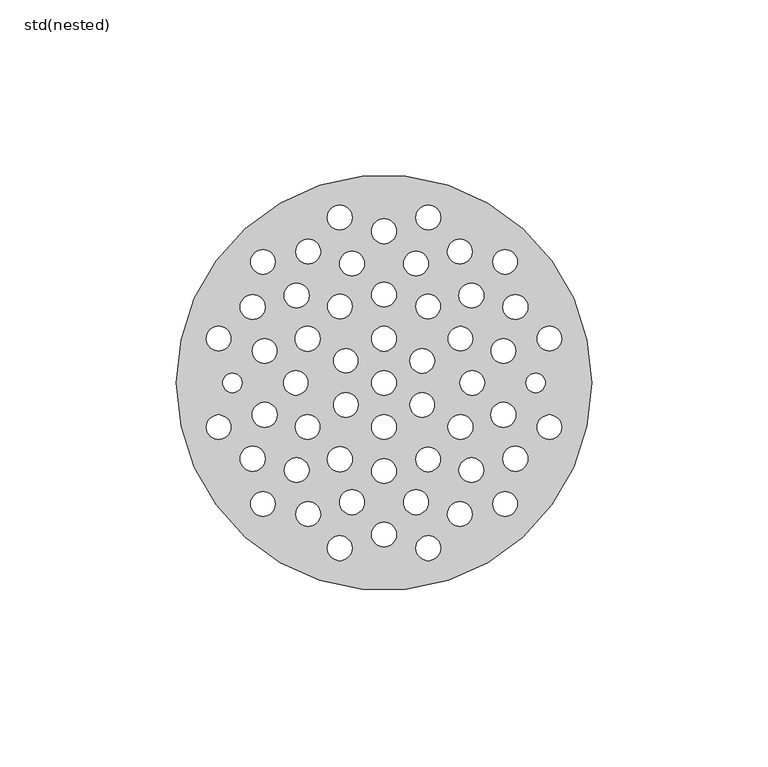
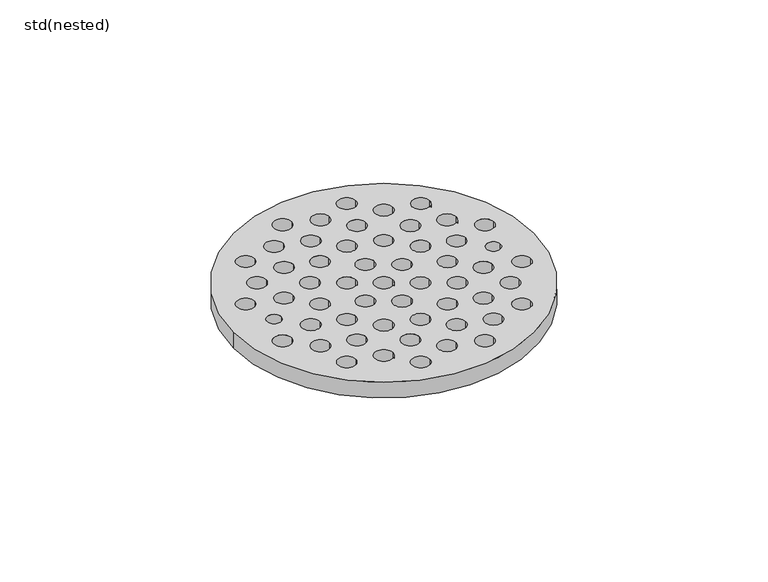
"""IFC4 building model written with IfcOpenShell, lengths in millimetres: sanitary terminal geometry, ZZZ_do not use_PF_ST_UN_strainer_ACO : std(nested)."""

from ifc_helpers import new_model, si_unit, point, frame, frame_2d, origin, origin_2d, place, context, project, spatial, circle_curve, trimmed, segment, composite_curve, outline, extrude, source, transform, mapped, element, save


def std_nested_4c23bc70(model_context):
    return source(origin(), model_context, "Body", "SweptSolid", [
        extrude(outline(composite_curve([segment(trimmed(circle_curve(origin_2d(), 58.8), [point((-58.8, 0.0))], [point((58.8, 0.0))], False, "CARTESIAN"), True, "CONTINUOUS"), segment(trimmed(circle_curve(origin_2d(), 58.8), [point((58.8, 0.0))], [point((-58.8, 0.0))], False, "CARTESIAN"), True, "CONTINUOUS")], self_intersect=False), holes=[composite_curve([segment(trimmed(circle_curve(origin_2d(), 3.5), [point((-3.5, 0.0))], [point((3.5, 0.0))], True, "CARTESIAN"), True, "CONTINUOUS"), segment(trimmed(circle_curve(origin_2d(), 3.5), [point((3.5, 0.0))], [point((-3.5, 0.0))], True, "CARTESIAN"), True, "CONTINUOUS")], self_intersect=False), composite_curve([segment(trimmed(circle_curve(frame_2d((0.0, -12.5)), 3.5121835), [point((-3.5121835, -12.5))], [point((3.5121835, -12.5))], True, "CARTESIAN"), True, "CONTINUOUS"), segment(trimmed(circle_curve(frame_2d((0.0, -12.5)), 3.5121835), [point((3.5121835, -12.5))], [point((-3.5121835, -12.5))], True, "CARTESIAN"), True, "CONTINUOUS")], self_intersect=False), composite_curve([segment(trimmed(circle_curve(frame_2d((0.0, 12.5)), 3.5129176), [point((-3.5129176, 12.5))], [point((3.5129176, 12.5))], True, "CARTESIAN"), True, "CONTINUOUS"), segment(trimmed(circle_curve(frame_2d((0.0, 12.5)), 3.5129176), [point((3.5129176, 12.5))], [point((-3.5129176, 12.5))], True, "CARTESIAN"), True, "CONTINUOUS")], self_intersect=False), composite_curve([segment(trimmed(circle_curve(frame_2d((10.8253175, -6.25)), 3.467804), [point((7.3575135, -6.25))], [point((14.2931216, -6.25))], True, "CARTESIAN"), True, "CONTINUOUS"), segment(trimmed(circle_curve(frame_2d((10.8253175, -6.25)), 3.467804), [point((14.2931216, -6.25))], [point((7.3575135, -6.25))], True, "CARTESIAN"), True, "CONTINUOUS")], self_intersect=False), composite_curve([segment(trimmed(circle_curve(frame_2d((10.8253175, 6.25)), 3.493145), [point((7.3321725, 6.25))], [point((14.3184626, 6.25))], True, "CARTESIAN"), True, "CONTINUOUS"), segment(trimmed(circle_curve(frame_2d((10.8253175, 6.25)), 3.493145), [point((14.3184626, 6.25))], [point((7.3321725, 6.25))], True, "CARTESIAN"), True, "CONTINUOUS")], self_intersect=False), composite_curve([segment(trimmed(circle_curve(frame_2d((-10.8253175, 6.25)), 3.4582398), [point((-14.2835573, 6.25))], [point((-7.3670778, 6.25))], True, "CARTESIAN"), True, "CONTINUOUS"), segment(trimmed(circle_curve(frame_2d((-10.8253175, 6.25)), 3.4582398), [point((-7.3670778, 6.25))], [point((-14.2835573, 6.25))], True, "CARTESIAN"), True, "CONTINUOUS")], self_intersect=False), composite_curve([segment(trimmed(circle_curve(frame_2d((-10.8253175, -6.25)), 3.4813104), [point((-14.306628, -6.25))], [point((-7.3440071, -6.25))], True, "CARTESIAN"), True, "CONTINUOUS"), segment(trimmed(circle_curve(frame_2d((-10.8253175, -6.25)), 3.4813104), [point((-7.3440071, -6.25))], [point((-14.306628, -6.25))], True, "CARTESIAN"), True, "CONTINUOUS")], self_intersect=False), composite_curve([segment(trimmed(circle_curve(frame_2d((0.0, -25.0)), 3.4978056), [point((-3.4978056, -25.0))], [point((3.4978056, -25.0))], True, "CARTESIAN"), True, "CONTINUOUS"), segment(trimmed(circle_curve(frame_2d((0.0, -25.0)), 3.4978056), [point((3.4978056, -25.0))], [point((-3.4978056, -25.0))], True, "CARTESIAN"), True, "CONTINUOUS")], self_intersect=False), composite_curve([segment(trimmed(circle_curve(frame_2d((25.0, 0.0)), 3.4808201), [point((21.5191799, 0.0))], [point((28.4808201, 0.0))], True, "CARTESIAN"), True, "CONTINUOUS"), segment(trimmed(circle_curve(frame_2d((25.0, 0.0)), 3.4808201), [point((28.4808201, 0.0))], [point((21.5191799, 0.0))], True, "CARTESIAN"), True, "CONTINUOUS")], self_intersect=False), composite_curve([segment(trimmed(circle_curve(frame_2d((0.0, 25.0)), 3.4910423), [point((-3.4910423, 25.0))], [point((3.4910423, 25.0))], True, "CARTESIAN"), True, "CONTINUOUS"), segment(trimmed(circle_curve(frame_2d((0.0, 25.0)), 3.4910423), [point((3.4910423, 25.0))], [point((-3.4910423, 25.0))], True, "CARTESIAN"), True, "CONTINUOUS")], self_intersect=False), composite_curve([segment(trimmed(circle_curve(frame_2d((-25.0, 0.0)), 3.4617667), [point((-28.4617667, 0.0))], [point((-21.5382333, 0.0))], True, "CARTESIAN"), True, "CONTINUOUS"), segment(trimmed(circle_curve(frame_2d((-25.0, 0.0)), 3.4617667), [point((-21.5382333, 0.0))], [point((-28.4617667, 0.0))], True, "CARTESIAN"), True, "CONTINUOUS")], self_intersect=False), composite_curve([segment(trimmed(circle_curve(frame_2d((21.6506351, 12.5)), 3.4893638), [point((18.1612713, 12.5))], [point((25.1399989, 12.5))], True, "CARTESIAN"), True, "CONTINUOUS"), segment(trimmed(circle_curve(frame_2d((21.6506351, 12.5)), 3.4893638), [point((25.1399989, 12.5))], [point((18.1612713, 12.5))], True, "CARTESIAN"), True, "CONTINUOUS")], self_intersect=False), composite_curve([segment(trimmed(circle_curve(frame_2d((12.5, 21.6506351)), 3.4541167), [point((9.0458833, 21.6506351))], [point((15.9541167, 21.6506351))], True, "CARTESIAN"), True, "CONTINUOUS"), segment(trimmed(circle_curve(frame_2d((12.5, 21.6506351)), 3.4541167), [point((15.9541167, 21.6506351))], [point((9.0458833, 21.6506351))], True, "CARTESIAN"), True, "CONTINUOUS")], self_intersect=False), composite_curve([segment(trimmed(circle_curve(frame_2d((-12.5, 21.6506351)), 3.4581743), [point((-15.9581743, 21.6506351))], [point((-9.0418257, 21.6506351))], True, "CARTESIAN"), True, "CONTINUOUS"), segment(trimmed(circle_curve(frame_2d((-12.5, 21.6506351)), 3.4581743), [point((-9.0418257, 21.6506351))], [point((-15.9581743, 21.6506351))], True, "CARTESIAN"), True, "CONTINUOUS")], self_intersect=False), composite_curve([segment(trimmed(circle_curve(frame_2d((-21.6506351, 12.5)), 3.5466773), [point((-25.1973124, 12.5))], [point((-18.1039578, 12.5))], True, "CARTESIAN"), True, "CONTINUOUS"), segment(trimmed(circle_curve(frame_2d((-21.6506351, 12.5)), 3.5466773), [point((-18.1039578, 12.5))], [point((-25.1973124, 12.5))], True, "CARTESIAN"), True, "CONTINUOUS")], self_intersect=False), composite_curve([segment(trimmed(circle_curve(frame_2d((-21.6506351, -12.5)), 3.4738775), [point((-25.1245126, -12.5))], [point((-18.1767576, -12.5))], True, "CARTESIAN"), True, "CONTINUOUS"), segment(trimmed(circle_curve(frame_2d((-21.6506351, -12.5)), 3.4738775), [point((-18.1767576, -12.5))], [point((-25.1245126, -12.5))], True, "CARTESIAN"), True, "CONTINUOUS")], self_intersect=False), composite_curve([segment(trimmed(circle_curve(frame_2d((-12.5, -21.6506351)), 3.5416449), [point((-16.0416449, -21.6506351))], [point((-8.9583551, -21.6506351))], True, "CARTESIAN"), True, "CONTINUOUS"), segment(trimmed(circle_curve(frame_2d((-12.5, -21.6506351)), 3.5416449), [point((-8.9583551, -21.6506351))], [point((-16.0416449, -21.6506351))], True, "CARTESIAN"), True, "CONTINUOUS")], self_intersect=False), composite_curve([segment(trimmed(circle_curve(frame_2d((12.5, -21.6506351)), 3.4976423), [point((9.0023577, -21.6506351))], [point((15.9976423, -21.6506351))], True, "CARTESIAN"), True, "CONTINUOUS"), segment(trimmed(circle_curve(frame_2d((12.5, -21.6506351)), 3.4976423), [point((15.9976423, -21.6506351))], [point((9.0023577, -21.6506351))], True, "CARTESIAN"), True, "CONTINUOUS")], self_intersect=False), composite_curve([segment(trimmed(circle_curve(frame_2d((21.6506351, -12.5)), 3.5257951), [point((18.12484, -12.5))], [point((25.1764302, -12.5))], True, "CARTESIAN"), True, "CONTINUOUS"), segment(trimmed(circle_curve(frame_2d((21.6506351, -12.5)), 3.5257951), [point((25.1764302, -12.5))], [point((18.12484, -12.5))], True, "CARTESIAN"), True, "CONTINUOUS")], self_intersect=False), composite_curve([segment(trimmed(circle_curve(frame_2d((9.0586666, -33.8074039)), 3.5297697), [point((5.5288969, -33.8074039))], [point((12.5884363, -33.8074039))], True, "CARTESIAN"), True, "CONTINUOUS"), segment(trimmed(circle_curve(frame_2d((9.0586666, -33.8074039)), 3.5297697), [point((12.5884363, -33.8074039))], [point((5.5288969, -33.8074039))], True, "CARTESIAN"), True, "CONTINUOUS")], self_intersect=False), composite_curve([segment(trimmed(circle_curve(frame_2d((24.7487373, -24.7487373)), 3.4992315), [point((21.2495058, -24.7487373))], [point((28.2479689, -24.7487373))], True, "CARTESIAN"), True, "CONTINUOUS"), segment(trimmed(circle_curve(frame_2d((24.7487373, -24.7487373)), 3.4992315), [point((28.2479689, -24.7487373))], [point((21.2495058, -24.7487373))], True, "CARTESIAN"), True, "CONTINUOUS")], self_intersect=False), composite_curve([segment(trimmed(circle_curve(frame_2d((33.8074039, -9.0586666)), 3.5430238), [point((30.2643802, -9.0586666))], [point((37.3504277, -9.0586666))], True, "CARTESIAN"), True, "CONTINUOUS"), segment(trimmed(circle_curve(frame_2d((33.8074039, -9.0586666)), 3.5430238), [point((37.3504277, -9.0586666))], [point((30.2643802, -9.0586666))], True, "CARTESIAN"), True, "CONTINUOUS")], self_intersect=False), composite_curve([segment(trimmed(circle_curve(frame_2d((33.8074039, 9.0586666)), 3.4738355), [point((30.3335684, 9.0586666))], [point((37.2812394, 9.0586666))], True, "CARTESIAN"), True, "CONTINUOUS"), segment(trimmed(circle_curve(frame_2d((33.8074039, 9.0586666)), 3.4738355), [point((37.2812394, 9.0586666))], [point((30.3335684, 9.0586666))], True, "CARTESIAN"), True, "CONTINUOUS")], self_intersect=False), composite_curve([segment(trimmed(circle_curve(frame_2d((24.7487373, 24.7487373)), 3.5264794), [point((21.222258, 24.7487373))], [point((28.2752167, 24.7487373))], True, "CARTESIAN"), True, "CONTINUOUS"), segment(trimmed(circle_curve(frame_2d((24.7487373, 24.7487373)), 3.5264794), [point((28.2752167, 24.7487373))], [point((21.222258, 24.7487373))], True, "CARTESIAN"), True, "CONTINUOUS")], self_intersect=False), composite_curve([segment(trimmed(circle_curve(frame_2d((9.0586666, 33.8074039)), 3.4879024), [point((5.5707642, 33.8074039))], [point((12.546569, 33.8074039))], True, "CARTESIAN"), True, "CONTINUOUS"), segment(trimmed(circle_curve(frame_2d((9.0586666, 33.8074039)), 3.4879024), [point((12.546569, 33.8074039))], [point((5.5707642, 33.8074039))], True, "CARTESIAN"), True, "CONTINUOUS")], self_intersect=False), composite_curve([segment(trimmed(circle_curve(frame_2d((-9.0586666, -33.8074039)), 3.5297697), [point((-5.5288969, -33.8074039))], [point((-12.5884363, -33.8074039))], True, "CARTESIAN"), True, "CONTINUOUS"), segment(trimmed(circle_curve(frame_2d((-9.0586666, -33.8074039)), 3.5297697), [point((-12.5884363, -33.8074039))], [point((-5.5288969, -33.8074039))], True, "CARTESIAN"), True, "CONTINUOUS")], self_intersect=False), composite_curve([segment(trimmed(circle_curve(frame_2d((-24.7487373, -24.7487373)), 3.4992315), [point((-21.2495058, -24.7487373))], [point((-28.2479689, -24.7487373))], True, "CARTESIAN"), True, "CONTINUOUS"), segment(trimmed(circle_curve(frame_2d((-24.7487373, -24.7487373)), 3.4992315), [point((-28.2479689, -24.7487373))], [point((-21.2495058, -24.7487373))], True, "CARTESIAN"), True, "CONTINUOUS")], self_intersect=False), composite_curve([segment(trimmed(circle_curve(frame_2d((-33.8074039, -9.0586666)), 3.5430238), [point((-30.2643802, -9.0586666))], [point((-37.3504277, -9.0586666))], True, "CARTESIAN"), True, "CONTINUOUS"), segment(trimmed(circle_curve(frame_2d((-33.8074039, -9.0586666)), 3.5430238), [point((-37.3504277, -9.0586666))], [point((-30.2643802, -9.0586666))], True, "CARTESIAN"), True, "CONTINUOUS")], self_intersect=False), composite_curve([segment(trimmed(circle_curve(frame_2d((-33.8074039, 9.0586666)), 3.4738355), [point((-30.3335684, 9.0586666))], [point((-37.2812394, 9.0586666))], True, "CARTESIAN"), True, "CONTINUOUS"), segment(trimmed(circle_curve(frame_2d((-33.8074039, 9.0586666)), 3.4738355), [point((-37.2812394, 9.0586666))], [point((-30.3335684, 9.0586666))], True, "CARTESIAN"), True, "CONTINUOUS")], self_intersect=False), composite_curve([segment(trimmed(circle_curve(frame_2d((-24.7487373, 24.7487373)), 3.5264794), [point((-21.222258, 24.7487373))], [point((-28.2752167, 24.7487373))], True, "CARTESIAN"), True, "CONTINUOUS"), segment(trimmed(circle_curve(frame_2d((-24.7487373, 24.7487373)), 3.5264794), [point((-28.2752167, 24.7487373))], [point((-21.222258, 24.7487373))], True, "CARTESIAN"), True, "CONTINUOUS")], self_intersect=False), composite_curve([segment(trimmed(circle_curve(frame_2d((-9.0586666, 33.8074039)), 3.4879024), [point((-5.5707642, 33.8074039))], [point((-12.546569, 33.8074039))], True, "CARTESIAN"), True, "CONTINUOUS"), segment(trimmed(circle_curve(frame_2d((-9.0586666, 33.8074039)), 3.4879024), [point((-12.546569, 33.8074039))], [point((-5.5707642, 33.8074039))], True, "CARTESIAN"), True, "CONTINUOUS")], self_intersect=False), composite_curve([segment(trimmed(circle_curve(frame_2d((0.0, 42.9626508)), 3.5164746), [point((-3.5164746, 42.9626508))], [point((3.5164746, 42.9626508))], True, "CARTESIAN"), True, "CONTINUOUS"), segment(trimmed(circle_curve(frame_2d((0.0, 42.9626508)), 3.5164746), [point((3.5164746, 42.9626508))], [point((-3.5164746, 42.9626508))], True, "CARTESIAN"), True, "CONTINUOUS")], self_intersect=False), composite_curve([segment(trimmed(circle_curve(frame_2d((0.0, -42.9626508)), 3.4931611), [point((-3.4931611, -42.9626508))], [point((3.4931611, -42.9626508))], True, "CARTESIAN"), True, "CONTINUOUS"), segment(trimmed(circle_curve(frame_2d((0.0, -42.9626508)), 3.4931611), [point((3.4931611, -42.9626508))], [point((-3.4931611, -42.9626508))], True, "CARTESIAN"), True, "CONTINUOUS")], self_intersect=False), composite_curve([segment(trimmed(circle_curve(frame_2d((42.9626508, 0.0)), 2.75), [point((40.2126508, 0.0))], [point((45.7126508, 0.0))], True, "CARTESIAN"), True, "CONTINUOUS"), segment(trimmed(circle_curve(frame_2d((42.9626508, 0.0)), 2.75), [point((45.7126508, 0.0))], [point((40.2126508, 0.0))], True, "CARTESIAN"), True, "CONTINUOUS")], self_intersect=False), composite_curve([segment(trimmed(circle_curve(frame_2d((21.4813254, -37.206747)), 3.5024302), [point((17.9788953, -37.206747))], [point((24.9837556, -37.206747))], True, "CARTESIAN"), True, "CONTINUOUS"), segment(trimmed(circle_curve(frame_2d((21.4813254, -37.206747)), 3.5024302), [point((24.9837556, -37.206747))], [point((17.9788953, -37.206747))], True, "CARTESIAN"), True, "CONTINUOUS")], self_intersect=False), composite_curve([segment(trimmed(circle_curve(frame_2d((37.206747, -21.4813254)), 3.5403881), [point((33.666359, -21.4813254))], [point((40.7471351, -21.4813254))], True, "CARTESIAN"), True, "CONTINUOUS"), segment(trimmed(circle_curve(frame_2d((37.206747, -21.4813254)), 3.5403881), [point((40.7471351, -21.4813254))], [point((33.666359, -21.4813254))], True, "CARTESIAN"), True, "CONTINUOUS")], self_intersect=False), composite_curve([segment(trimmed(circle_curve(frame_2d((21.4813254, 37.206747)), 3.5024302), [point((17.9788953, 37.206747))], [point((24.9837556, 37.206747))], True, "CARTESIAN"), True, "CONTINUOUS"), segment(trimmed(circle_curve(frame_2d((21.4813254, 37.206747)), 3.5024302), [point((24.9837556, 37.206747))], [point((17.9788953, 37.206747))], True, "CARTESIAN"), True, "CONTINUOUS")], self_intersect=False), composite_curve([segment(trimmed(circle_curve(frame_2d((37.206747, 21.4813254)), 3.5403881), [point((33.666359, 21.4813254))], [point((40.7471351, 21.4813254))], True, "CARTESIAN"), True, "CONTINUOUS"), segment(trimmed(circle_curve(frame_2d((37.206747, 21.4813254)), 3.5403881), [point((40.7471351, 21.4813254))], [point((33.666359, 21.4813254))], True, "CARTESIAN"), True, "CONTINUOUS")], self_intersect=False), composite_curve([segment(trimmed(circle_curve(frame_2d((-42.9626508, 0.0)), 2.75), [point((-40.2126508, 0.0))], [point((-45.7126508, 0.0))], True, "CARTESIAN"), True, "CONTINUOUS"), segment(trimmed(circle_curve(frame_2d((-42.9626508, 0.0)), 2.75), [point((-45.7126508, 0.0))], [point((-40.2126508, 0.0))], True, "CARTESIAN"), True, "CONTINUOUS")], self_intersect=False), composite_curve([segment(trimmed(circle_curve(frame_2d((-21.4813254, -37.206747)), 3.5024302), [point((-17.9788953, -37.206747))], [point((-24.9837556, -37.206747))], True, "CARTESIAN"), True, "CONTINUOUS"), segment(trimmed(circle_curve(frame_2d((-21.4813254, -37.206747)), 3.5024302), [point((-24.9837556, -37.206747))], [point((-17.9788953, -37.206747))], True, "CARTESIAN"), True, "CONTINUOUS")], self_intersect=False), composite_curve([segment(trimmed(circle_curve(frame_2d((-37.206747, -21.4813254)), 3.5403881), [point((-33.666359, -21.4813254))], [point((-40.7471351, -21.4813254))], True, "CARTESIAN"), True, "CONTINUOUS"), segment(trimmed(circle_curve(frame_2d((-37.206747, -21.4813254)), 3.5403881), [point((-40.7471351, -21.4813254))], [point((-33.666359, -21.4813254))], True, "CARTESIAN"), True, "CONTINUOUS")], self_intersect=False), composite_curve([segment(trimmed(circle_curve(frame_2d((-21.4813254, 37.206747)), 3.5024302), [point((-17.9788953, 37.206747))], [point((-24.9837556, 37.206747))], True, "CARTESIAN"), True, "CONTINUOUS"), segment(trimmed(circle_curve(frame_2d((-21.4813254, 37.206747)), 3.5024302), [point((-24.9837556, 37.206747))], [point((-17.9788953, 37.206747))], True, "CARTESIAN"), True, "CONTINUOUS")], self_intersect=False), composite_curve([segment(trimmed(circle_curve(frame_2d((-37.206747, 21.4813254)), 3.5403881), [point((-33.666359, 21.4813254))], [point((-40.7471351, 21.4813254))], True, "CARTESIAN"), True, "CONTINUOUS"), segment(trimmed(circle_curve(frame_2d((-37.206747, 21.4813254)), 3.5403881), [point((-40.7471351, 21.4813254))], [point((-33.666359, 21.4813254))], True, "CARTESIAN"), True, "CONTINUOUS")], self_intersect=False), composite_curve([segment(trimmed(circle_curve(frame_2d((12.5527237, -46.8474026)), 3.5092747), [point((9.043449, -46.8474026))], [point((16.0619984, -46.8474026))], True, "CARTESIAN"), True, "CONTINUOUS"), segment(trimmed(circle_curve(frame_2d((12.5527237, -46.8474026)), 3.5092747), [point((16.0619984, -46.8474026))], [point((9.043449, -46.8474026))], True, "CARTESIAN"), True, "CONTINUOUS")], self_intersect=False), composite_curve([segment(trimmed(circle_curve(frame_2d((34.2946789, -34.2946789)), 3.482206), [point((30.8124729, -34.2946789))], [point((37.7768849, -34.2946789))], True, "CARTESIAN"), True, "CONTINUOUS"), segment(trimmed(circle_curve(frame_2d((34.2946789, -34.2946789)), 3.482206), [point((37.7768849, -34.2946789))], [point((30.8124729, -34.2946789))], True, "CARTESIAN"), True, "CONTINUOUS")], self_intersect=False), composite_curve([segment(trimmed(circle_curve(frame_2d((46.8474026, -12.5527237)), 3.4753522), [point((43.3720504, -12.5527237))], [point((50.3227548, -12.5527237))], True, "CARTESIAN"), True, "CONTINUOUS"), segment(trimmed(circle_curve(frame_2d((46.8474026, -12.5527237)), 3.4753522), [point((50.3227548, -12.5527237))], [point((43.3720504, -12.5527237))], True, "CARTESIAN"), True, "CONTINUOUS")], self_intersect=False), composite_curve([segment(trimmed(circle_curve(frame_2d((12.5527237, 46.8474026)), 3.5092747), [point((9.043449, 46.8474026))], [point((16.0619984, 46.8474026))], True, "CARTESIAN"), True, "CONTINUOUS"), segment(trimmed(circle_curve(frame_2d((12.5527237, 46.8474026)), 3.5092747), [point((16.0619984, 46.8474026))], [point((9.043449, 46.8474026))], True, "CARTESIAN"), True, "CONTINUOUS")], self_intersect=False), composite_curve([segment(trimmed(circle_curve(frame_2d((34.2946789, 34.2946789)), 3.482206), [point((30.8124729, 34.2946789))], [point((37.7768849, 34.2946789))], True, "CARTESIAN"), True, "CONTINUOUS"), segment(trimmed(circle_curve(frame_2d((34.2946789, 34.2946789)), 3.482206), [point((37.7768849, 34.2946789))], [point((30.8124729, 34.2946789))], True, "CARTESIAN"), True, "CONTINUOUS")], self_intersect=False), composite_curve([segment(trimmed(circle_curve(frame_2d((46.8474026, 12.5527237)), 3.4753522), [point((43.3720504, 12.5527237))], [point((50.3227548, 12.5527237))], True, "CARTESIAN"), True, "CONTINUOUS"), segment(trimmed(circle_curve(frame_2d((46.8474026, 12.5527237)), 3.4753522), [point((50.3227548, 12.5527237))], [point((43.3720504, 12.5527237))], True, "CARTESIAN"), True, "CONTINUOUS")], self_intersect=False), composite_curve([segment(trimmed(circle_curve(frame_2d((-12.5527237, -46.8474026)), 3.5092747), [point((-9.043449, -46.8474026))], [point((-16.0619984, -46.8474026))], True, "CARTESIAN"), True, "CONTINUOUS"), segment(trimmed(circle_curve(frame_2d((-12.5527237, -46.8474026)), 3.5092747), [point((-16.0619984, -46.8474026))], [point((-9.043449, -46.8474026))], True, "CARTESIAN"), True, "CONTINUOUS")], self_intersect=False), composite_curve([segment(trimmed(circle_curve(frame_2d((-34.2946789, -34.2946789)), 3.482206), [point((-30.8124729, -34.2946789))], [point((-37.7768849, -34.2946789))], True, "CARTESIAN"), True, "CONTINUOUS"), segment(trimmed(circle_curve(frame_2d((-34.2946789, -34.2946789)), 3.482206), [point((-37.7768849, -34.2946789))], [point((-30.8124729, -34.2946789))], True, "CARTESIAN"), True, "CONTINUOUS")], self_intersect=False), composite_curve([segment(trimmed(circle_curve(frame_2d((-46.8474026, -12.5527237)), 3.4753522), [point((-43.3720504, -12.5527237))], [point((-50.3227548, -12.5527237))], True, "CARTESIAN"), True, "CONTINUOUS"), segment(trimmed(circle_curve(frame_2d((-46.8474026, -12.5527237)), 3.4753522), [point((-50.3227548, -12.5527237))], [point((-43.3720504, -12.5527237))], True, "CARTESIAN"), True, "CONTINUOUS")], self_intersect=False), composite_curve([segment(trimmed(circle_curve(frame_2d((-12.5527237, 46.8474026)), 3.5092747), [point((-9.043449, 46.8474026))], [point((-16.0619984, 46.8474026))], True, "CARTESIAN"), True, "CONTINUOUS"), segment(trimmed(circle_curve(frame_2d((-12.5527237, 46.8474026)), 3.5092747), [point((-16.0619984, 46.8474026))], [point((-9.043449, 46.8474026))], True, "CARTESIAN"), True, "CONTINUOUS")], self_intersect=False), composite_curve([segment(trimmed(circle_curve(frame_2d((-34.2946789, 34.2946789)), 3.482206), [point((-30.8124729, 34.2946789))], [point((-37.7768849, 34.2946789))], True, "CARTESIAN"), True, "CONTINUOUS"), segment(trimmed(circle_curve(frame_2d((-34.2946789, 34.2946789)), 3.482206), [point((-37.7768849, 34.2946789))], [point((-30.8124729, 34.2946789))], True, "CARTESIAN"), True, "CONTINUOUS")], self_intersect=False), composite_curve([segment(trimmed(circle_curve(frame_2d((-46.8474026, 12.5527237)), 3.4753522), [point((-43.3720504, 12.5527237))], [point((-50.3227548, 12.5527237))], True, "CARTESIAN"), True, "CONTINUOUS"), segment(trimmed(circle_curve(frame_2d((-46.8474026, 12.5527237)), 3.4753522), [point((-50.3227548, 12.5527237))], [point((-43.3720504, 12.5527237))], True, "CARTESIAN"), True, "CONTINUOUS")], self_intersect=False)]), frame((0.0, 0.0, -6.5), z_axis=(0.0, 0.0, 1.0), x_axis=(1.0, 0.0, 0.0)), (0.0, 0.0, 1.0), 6.5),
    ])


if __name__ == "__main__":
    model = new_model("IFC4")
    model_context = context("Model", 3, world=origin())
    ifc_project = project(units=[si_unit("LENGTHUNIT", "METRE", prefix="MILLI")], contexts=[model_context])
    site = spatial("IfcSite", under=ifc_project)
    building = spatial("IfcBuilding", under=site)
    placement = place(None, origin())
    std_nested_shape = std_nested_4c23bc70(model_context)
    element("IfcSanitaryTerminal", 1, ObjectType="ZZZ_do not use_PF_ST_UN_strainer_ACO : std(nested)", at=placement, inside=building, context=model_context, shape_type="MappedRepresentation", body=[
        mapped(std_nested_shape, transform((0.0, 0.0, 0.0), x_axis=(1.0, 0.0, 0.0), y_axis=(0.0, 1.0, 0.0), z_axis=(0.0, 0.0, 1.0))),
    ])
    save(model, "model.ifc")
